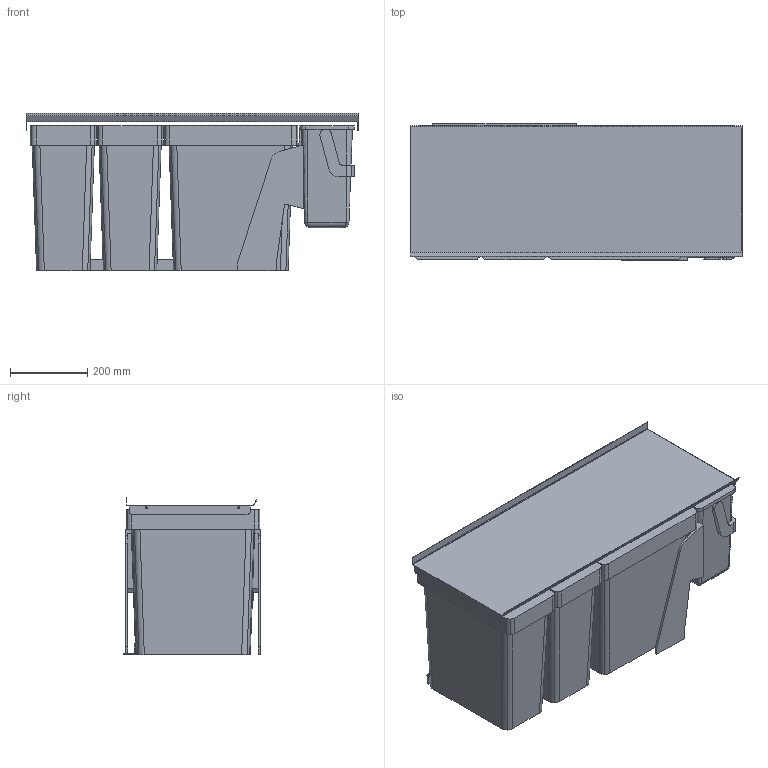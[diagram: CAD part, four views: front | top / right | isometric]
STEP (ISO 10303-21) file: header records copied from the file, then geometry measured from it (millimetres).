
FILE_DESCRIPTION(('STEP AP242'),'1');
FILE_NAME('OPO_54.024.43.stp','2025-11-08T20:33:25',(' '),(' '),'Spatial InterOp 3D',' ',' ');
FILE_SCHEMA(('AP242_MANAGED_MODEL_BASED_3D_ENGINEERING_MIM_LF {1 0 10303 442 1 1 4}'));
Length unit declared in the file: millimetre
Products named in the file (1): 1
Bounding box: 860 x 354 x 407 mm (x, y, z)
Volume: 82086513.8 mm3; surface area: 2847247.5 mm2
Topology: 5 solids, 5 shells, 305 faces, 840 edges, 546 vertices
Faces by surface type: plane 151, cylinder 132, cone 10, bspline 8, extrusion 4
Entity records: 13366 total; most frequent: CARTESIAN_POINT 3036, ORIENTED_EDGE 1664, DIRECTION 1634, EDGE_CURVE 832, AXIS2_PLACEMENT_3D 558, VERTEX_POINT 546, VECTOR 518, LINE 514
